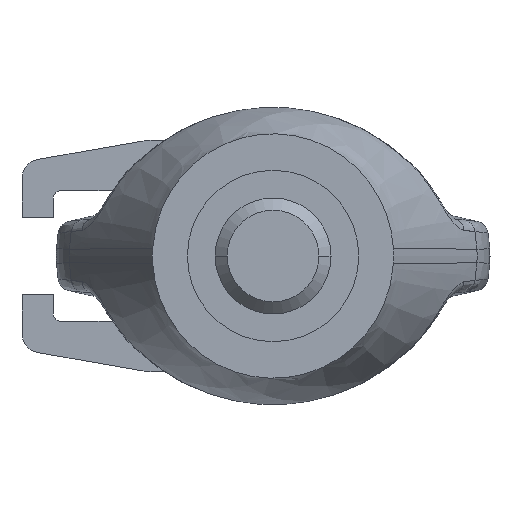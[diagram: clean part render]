
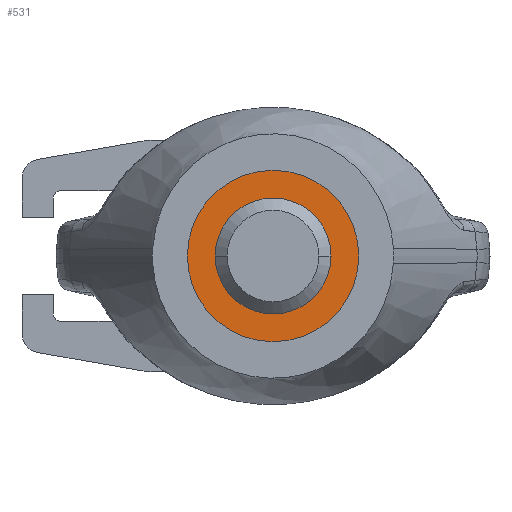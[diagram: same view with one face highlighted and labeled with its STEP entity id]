
A CAD part, front view. The second image highlights one B-rep face of the part: STEP entity #531.
In plain terms, the highlighted planar face has unit normal (0, -1, 0).
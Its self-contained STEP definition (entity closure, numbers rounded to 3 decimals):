
#531=ADVANCED_FACE('',(#1482,#1483),#1484,.T.);
#1482=FACE_OUTER_BOUND('',#2884,.T.);
#1483=FACE_BOUND('',#2885,.T.);
#1484=PLANE('',#2886);
#2884=EDGE_LOOP('',(#14557,#14558));
#2885=EDGE_LOOP('',(#14559,#14560));
#2886=AXIS2_PLACEMENT_3D('',#14561,#14562,#14563);
#14557=ORIENTED_EDGE('',*,*,#18328,.F.);
#14558=ORIENTED_EDGE('',*,*,#18275,.F.);
#14559=ORIENTED_EDGE('',*,*,#18280,.F.);
#14560=ORIENTED_EDGE('',*,*,#18326,.F.);
#14561=CARTESIAN_POINT('',(17.5,-45.0,0.0));
#14562=DIRECTION('',(0.,-1.0,0.0));
#14563=DIRECTION('',(0.0,0.0,-1.0));
#18275=EDGE_CURVE('',#19916,#19912,#19918,.F.);
#18280=EDGE_CURVE('',#19925,#19921,#19927,.T.);
#18326=EDGE_CURVE('',#19921,#19925,#19991,.T.);
#18328=EDGE_CURVE('',#19912,#19916,#19993,.F.);
#19912=VERTEX_POINT('',#22309);
#19916=VERTEX_POINT('',#22314);
#19918=CIRCLE('',#22317,17.75);
#19921=VERTEX_POINT('',#22320);
#19925=VERTEX_POINT('',#22325);
#19927=CIRCLE('',#22328,12.0);
#19991=CIRCLE('',#22414,12.0);
#19993=CIRCLE('',#22416,17.75);
#22309=CARTESIAN_POINT('',(17.75,-45.0,0.0));
#22314=CARTESIAN_POINT('',(-17.75,-45.0,0.));
#22317=AXIS2_PLACEMENT_3D('',#32577,#32578,#32579);
#22320=CARTESIAN_POINT('',(-12.0,-45.0,0.));
#22325=CARTESIAN_POINT('',(12.0,-45.0,0.0));
#22328=AXIS2_PLACEMENT_3D('',#32585,#32586,#32587);
#22414=AXIS2_PLACEMENT_3D('',#32634,#32635,#32636);
#22416=AXIS2_PLACEMENT_3D('',#32637,#32638,#32639);
#32577=CARTESIAN_POINT('',(0.,-45.0,0.0));
#32578=DIRECTION('',(0.,-1.0,0.0));
#32579=DIRECTION('',(1.0,0.,0.0));
#32585=CARTESIAN_POINT('',(0.,-45.0,0.0));
#32586=DIRECTION('',(0.,-1.0,0.0));
#32587=DIRECTION('',(1.0,0.,0.0));
#32634=CARTESIAN_POINT('',(0.,-45.0,0.0));
#32635=DIRECTION('',(0.,-1.0,0.0));
#32636=DIRECTION('',(1.0,0.,0.0));
#32637=CARTESIAN_POINT('',(0.,-45.0,0.0));
#32638=DIRECTION('',(0.,-1.0,0.0));
#32639=DIRECTION('',(1.0,0.,0.0));
